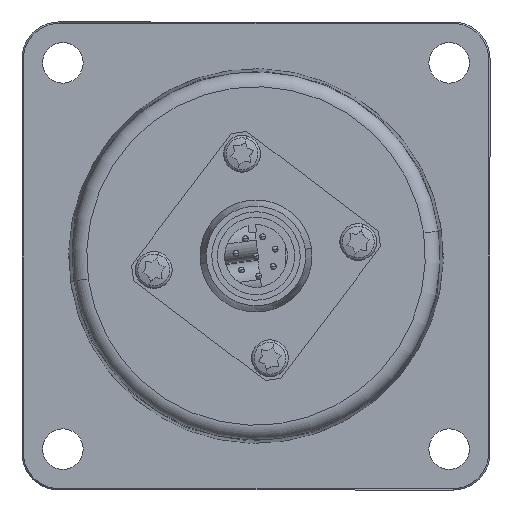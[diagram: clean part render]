
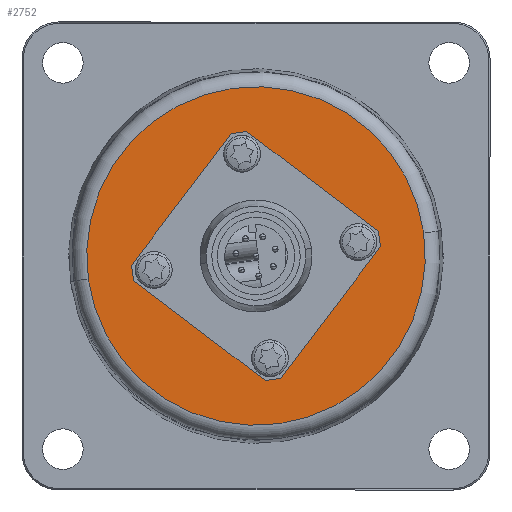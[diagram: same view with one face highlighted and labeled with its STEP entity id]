
A CAD part, left-side view. The second image highlights one B-rep face of the part: STEP entity #2752.
In plain terms, the highlighted planar face has unit normal (-1, 0, 0).
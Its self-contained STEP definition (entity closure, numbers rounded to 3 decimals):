
#2427 = ORIENTED_EDGE ( 'NONE', *, *, #2428, .T. ) ;
#2428 = EDGE_CURVE ( 'NONE', #2845, #2861, #6171, .T. ) ;
#2429 = ORIENTED_EDGE ( 'NONE', *, *, #2844, .T. ) ;
#2430 = EDGE_LOOP ( 'NONE', ( #2882, #2736 ) ) ;
#2535 = VERTEX_POINT ( 'NONE', #6320 ) ;
#2536 = ORIENTED_EDGE ( 'NONE', *, *, #2537, .T. ) ;
#2537 = EDGE_CURVE ( 'NONE', #2535, #2699, #6316, .T. ) ;
#2538 = EDGE_LOOP ( 'NONE', ( #2539, #2543 ) ) ;
#2539 = ORIENTED_EDGE ( 'NONE', *, *, #2540, .T. ) ;
#2540 = EDGE_CURVE ( 'NONE', #2541, #2542, #6311, .T. ) ;
#2541 = VERTEX_POINT ( 'NONE', #6306 ) ;
#2542 = VERTEX_POINT ( 'NONE', #6305 ) ;
#2543 = ORIENTED_EDGE ( 'NONE', *, *, #2695, .T. ) ;
#2544 = ORIENTED_EDGE ( 'NONE', *, *, #2545, .T. ) ;
#2545 = EDGE_CURVE ( 'NONE', #2702, #2701, #6303, .T. ) ;
#2546 = EDGE_LOOP ( 'NONE', ( #2547, #2551 ) ) ;
#2547 = ORIENTED_EDGE ( 'NONE', *, *, #2548, .T. ) ;
#2548 = EDGE_CURVE ( 'NONE', #2549, #2550, #6315, .T. ) ;
#2549 = VERTEX_POINT ( 'NONE', #6295 ) ;
#2550 = VERTEX_POINT ( 'NONE', #6294 ) ;
#2551 = ORIENTED_EDGE ( 'NONE', *, *, #2552, .T. ) ;
#2552 = EDGE_CURVE ( 'NONE', #2550, #2549, #6299, .T. ) ;
#2553 = EDGE_LOOP ( 'NONE', ( #2427, #2429 ) ) ;
#2695 = EDGE_CURVE ( 'NONE', #2542, #2541, #6511, .T. ) ;
#2696 = EDGE_LOOP ( 'NONE', ( #2697, #2544 ) ) ;
#2697 = ORIENTED_EDGE ( 'NONE', *, *, #2700, .T. ) ;
#2698 = EDGE_CURVE ( 'NONE', #2699, #2535, #6569, .T. ) ;
#2699 = VERTEX_POINT ( 'NONE', #6564 ) ;
#2700 = EDGE_CURVE ( 'NONE', #2701, #2702, #6563, .T. ) ;
#2701 = VERTEX_POINT ( 'NONE', #6558 ) ;
#2702 = VERTEX_POINT ( 'NONE', #6557 ) ;
#2736 = ORIENTED_EDGE ( 'NONE', *, *, #2812, .F. ) ;
#2752 = ADVANCED_FACE ( 'NONE', ( #6657, #6656, #6655, #6654, #6653, #6652 ), #6651, .F. ) ;
#2753 = EDGE_LOOP ( 'NONE', ( #2889, #2536 ) ) ;
#2812 = EDGE_CURVE ( 'NONE', #2880, #2879, #6775, .T. ) ;
#2844 = EDGE_CURVE ( 'NONE', #2861, #2845, #6799, .T. ) ;
#2845 = VERTEX_POINT ( 'NONE', #6783 ) ;
#2861 = VERTEX_POINT ( 'NONE', #6823 ) ;
#2879 = VERTEX_POINT ( 'NONE', #6859 ) ;
#2880 = VERTEX_POINT ( 'NONE', #6867 ) ;
#2881 = EDGE_CURVE ( 'NONE', #2879, #2880, #6856, .T. ) ;
#2882 = ORIENTED_EDGE ( 'NONE', *, *, #2881, .F. ) ;
#2889 = ORIENTED_EDGE ( 'NONE', *, *, #2698, .T. ) ;
#6167 = DIRECTION ( 'NONE',  ( 0., 0.991, -0.135 ) ) ;
#6168 = DIRECTION ( 'NONE',  ( -1., 0., 0. ) ) ;
#6169 = CARTESIAN_POINT ( 'NONE',  ( -21., 0., 0. ) ) ;
#6170 = AXIS2_PLACEMENT_3D ( 'NONE', #6169, #6168, #6167 ) ;
#6171 = CIRCLE ( 'NONE', #6170, 22.972 ) ;
#6294 = CARTESIAN_POINT ( 'NONE',  ( -21., -15.248, 2.081 ) ) ;
#6295 = CARTESIAN_POINT ( 'NONE',  ( -21., -12.496, 1.706 ) ) ;
#6296 = DIRECTION ( 'NONE',  ( 0., 0.991, -0.135 ) ) ;
#6297 = DIRECTION ( 'NONE',  ( 1., 0., 0. ) ) ;
#6298 = CARTESIAN_POINT ( 'NONE',  ( -21., -13.872, 1.894 ) ) ;
#6299 = CIRCLE ( 'NONE', #6351, 1.389 ) ;
#6300 = DIRECTION ( 'NONE',  ( 1., 0., 0. ) ) ;
#6301 = CARTESIAN_POINT ( 'NONE',  ( -21., 1.894, 13.872 ) ) ;
#6302 = AXIS2_PLACEMENT_3D ( 'NONE', #6301, #6300, #6317 ) ;
#6303 = CIRCLE ( 'NONE', #6302, 1.389 ) ;
#6304 = AXIS2_PLACEMENT_3D ( 'NONE', #6298, #6297, #6296 ) ;
#6305 = CARTESIAN_POINT ( 'NONE',  ( -21., -3.269, -13.684 ) ) ;
#6306 = CARTESIAN_POINT ( 'NONE',  ( -21., -0.518, -14.06 ) ) ;
#6307 = DIRECTION ( 'NONE',  ( 0., 0.991, -0.135 ) ) ;
#6308 = DIRECTION ( 'NONE',  ( 1., 0., 0. ) ) ;
#6309 = CARTESIAN_POINT ( 'NONE',  ( -21., -1.894, -13.872 ) ) ;
#6310 = AXIS2_PLACEMENT_3D ( 'NONE', #6309, #6308, #6307 ) ;
#6311 = CIRCLE ( 'NONE', #6310, 1.389 ) ;
#6312 = DIRECTION ( 'NONE',  ( 0., 0.991, -0.135 ) ) ;
#6313 = DIRECTION ( 'NONE',  ( 1., 0., 0. ) ) ;
#6314 = AXIS2_PLACEMENT_3D ( 'NONE', #6318, #6313, #6312 ) ;
#6315 = CIRCLE ( 'NONE', #6304, 1.389 ) ;
#6316 = CIRCLE ( 'NONE', #6314, 1.389 ) ;
#6317 = DIRECTION ( 'NONE',  ( 0., 0.991, -0.135 ) ) ;
#6318 = CARTESIAN_POINT ( 'NONE',  ( -21., 13.872, -1.894 ) ) ;
#6320 = CARTESIAN_POINT ( 'NONE',  ( -21., 12.496, -1.706 ) ) ;
#6348 = DIRECTION ( 'NONE',  ( 0., 0.991, -0.135 ) ) ;
#6349 = DIRECTION ( 'NONE',  ( 1., 0., 0. ) ) ;
#6350 = CARTESIAN_POINT ( 'NONE',  ( -21., -13.872, 1.894 ) ) ;
#6351 = AXIS2_PLACEMENT_3D ( 'NONE', #6350, #6349, #6348 ) ;
#6508 = DIRECTION ( 'NONE',  ( 1., 0., 0. ) ) ;
#6509 = CARTESIAN_POINT ( 'NONE',  ( -21., -1.894, -13.872 ) ) ;
#6510 = AXIS2_PLACEMENT_3D ( 'NONE', #6509, #6508, #6570 ) ;
#6511 = CIRCLE ( 'NONE', #6510, 1.389 ) ;
#6557 = CARTESIAN_POINT ( 'NONE',  ( -21., 0.518, 14.06 ) ) ;
#6558 = CARTESIAN_POINT ( 'NONE',  ( -21., 3.269, 13.684 ) ) ;
#6559 = DIRECTION ( 'NONE',  ( 0., 0.991, -0.135 ) ) ;
#6560 = DIRECTION ( 'NONE',  ( 1., 0., 0. ) ) ;
#6561 = CARTESIAN_POINT ( 'NONE',  ( -21., 1.894, 13.872 ) ) ;
#6562 = AXIS2_PLACEMENT_3D ( 'NONE', #6561, #6560, #6559 ) ;
#6563 = CIRCLE ( 'NONE', #6562, 1.389 ) ;
#6564 = CARTESIAN_POINT ( 'NONE',  ( -21., 15.248, -2.081 ) ) ;
#6565 = DIRECTION ( 'NONE',  ( 0., 0.991, -0.135 ) ) ;
#6566 = DIRECTION ( 'NONE',  ( 1., 0., 0. ) ) ;
#6567 = CARTESIAN_POINT ( 'NONE',  ( -21., 13.872, -1.894 ) ) ;
#6568 = AXIS2_PLACEMENT_3D ( 'NONE', #6567, #6566, #6565 ) ;
#6569 = CIRCLE ( 'NONE', #6568, 1.389 ) ;
#6570 = DIRECTION ( 'NONE',  ( 0., 0.991, -0.135 ) ) ;
#6647 = DIRECTION ( 'NONE',  ( 0., 0.991, -0.135 ) ) ;
#6648 = DIRECTION ( 'NONE',  ( 1., 0., 0. ) ) ;
#6649 = CARTESIAN_POINT ( 'NONE',  ( -21., 0., 0. ) ) ;
#6650 = AXIS2_PLACEMENT_3D ( 'NONE', #6649, #6648, #6647 ) ;
#6651 = PLANE ( 'NONE',  #6650 ) ;
#6652 = FACE_BOUND ( 'NONE', #2430, .T. ) ;
#6653 = FACE_OUTER_BOUND ( 'NONE', #2553, .T. ) ;
#6654 = FACE_BOUND ( 'NONE', #2546, .T. ) ;
#6655 = FACE_BOUND ( 'NONE', #2696, .T. ) ;
#6656 = FACE_BOUND ( 'NONE', #2538, .T. ) ;
#6657 = FACE_BOUND ( 'NONE', #2753, .T. ) ;
#6771 = DIRECTION ( 'NONE',  ( 0., -0.991, 0.135 ) ) ;
#6772 = DIRECTION ( 'NONE',  ( -1., 0., 0. ) ) ;
#6773 = CARTESIAN_POINT ( 'NONE',  ( -21., 0., 0. ) ) ;
#6774 = AXIS2_PLACEMENT_3D ( 'NONE', #6773, #6772, #6771 ) ;
#6775 = CIRCLE ( 'NONE', #6774, 11.5 ) ;
#6780 = DIRECTION ( 'NONE',  ( 0., 0.991, -0.135 ) ) ;
#6781 = DIRECTION ( 'NONE',  ( -1., 0., 0. ) ) ;
#6782 = AXIS2_PLACEMENT_3D ( 'NONE', #6788, #6781, #6780 ) ;
#6783 = CARTESIAN_POINT ( 'NONE',  ( -21., 22.761, -3.107 ) ) ;
#6788 = CARTESIAN_POINT ( 'NONE',  ( -21., 0., 0. ) ) ;
#6799 = CIRCLE ( 'NONE', #6782, 22.972 ) ;
#6823 = CARTESIAN_POINT ( 'NONE',  ( -21., -22.761, 3.107 ) ) ;
#6852 = DIRECTION ( 'NONE',  ( 0., -0.991, 0.135 ) ) ;
#6853 = DIRECTION ( 'NONE',  ( -1., 0., 0. ) ) ;
#6854 = CARTESIAN_POINT ( 'NONE',  ( -21., 0., 0. ) ) ;
#6855 = AXIS2_PLACEMENT_3D ( 'NONE', #6854, #6853, #6852 ) ;
#6856 = CIRCLE ( 'NONE', #6855, 11.5 ) ;
#6859 = CARTESIAN_POINT ( 'NONE',  ( -21., -11.394, 1.555 ) ) ;
#6867 = CARTESIAN_POINT ( 'NONE',  ( -21., 11.394, -1.555 ) ) ;
